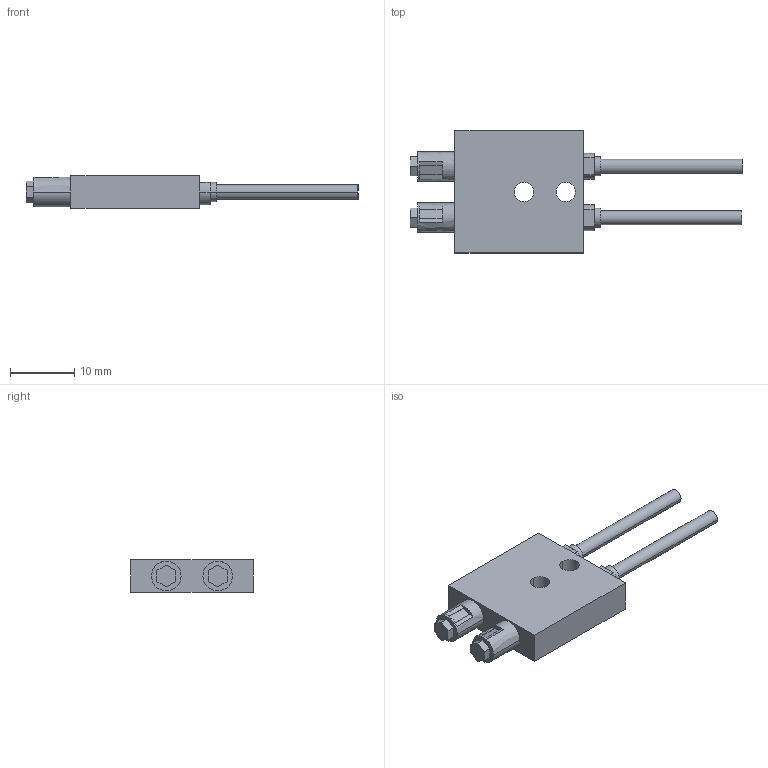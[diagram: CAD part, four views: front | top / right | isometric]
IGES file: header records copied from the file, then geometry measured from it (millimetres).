
Start section: SolidWorks IGES FILE using analytic representation for surfaces
Global section: file name: C:\Documents and Settings\yk0651\デスクトップ\3D_catalog_050904\0_IGES\FD-H18-L31.IGS; native system: SolidWorks 2004 by SolidWorks Corporation; preprocessor: Version 5.3; author: yk0651; date: 050904.183737; units: millimetre
Bounding box: 51.7 x 19 x 5 mm (x, y, z)
Volume: 2253.3 mm3; surface area: 1777.3 mm2
Topology: 1 solids, 1 shells, 66 faces, 160 edges, 106 vertices
Faces by surface type: plane 44, revolution 22
